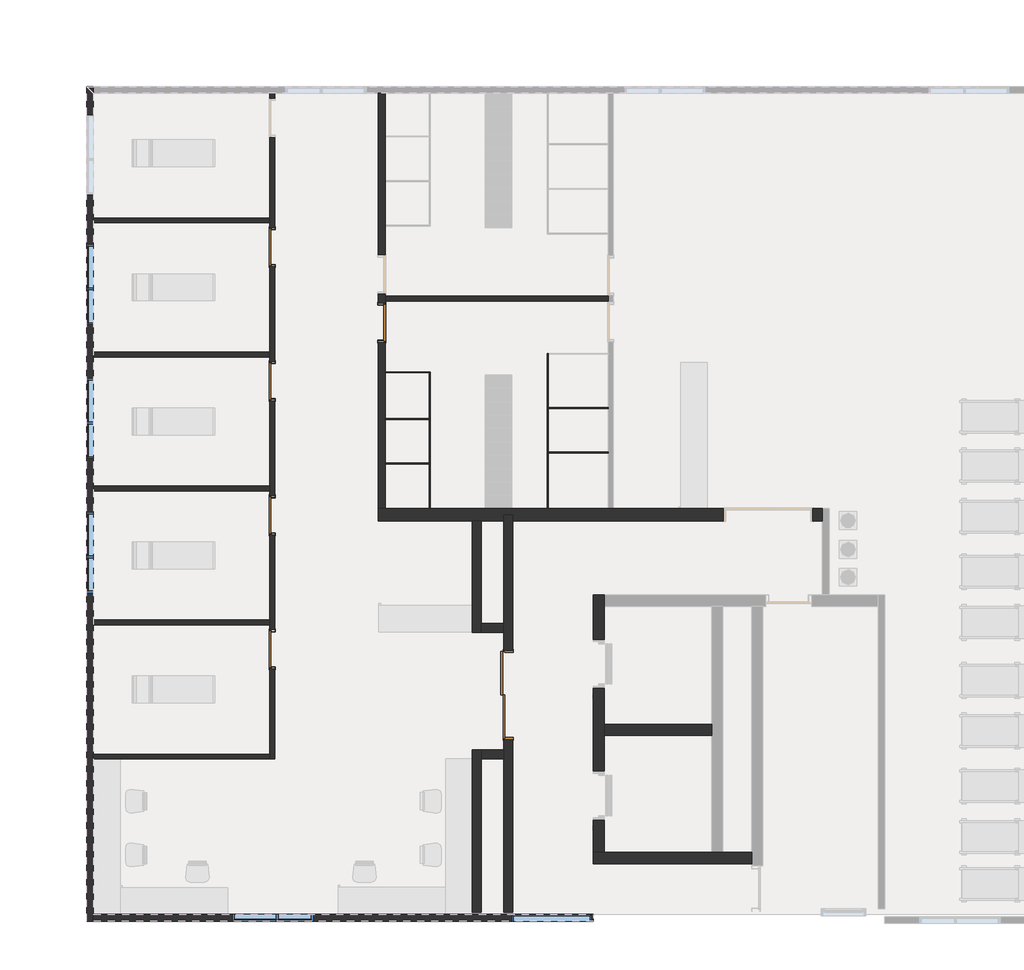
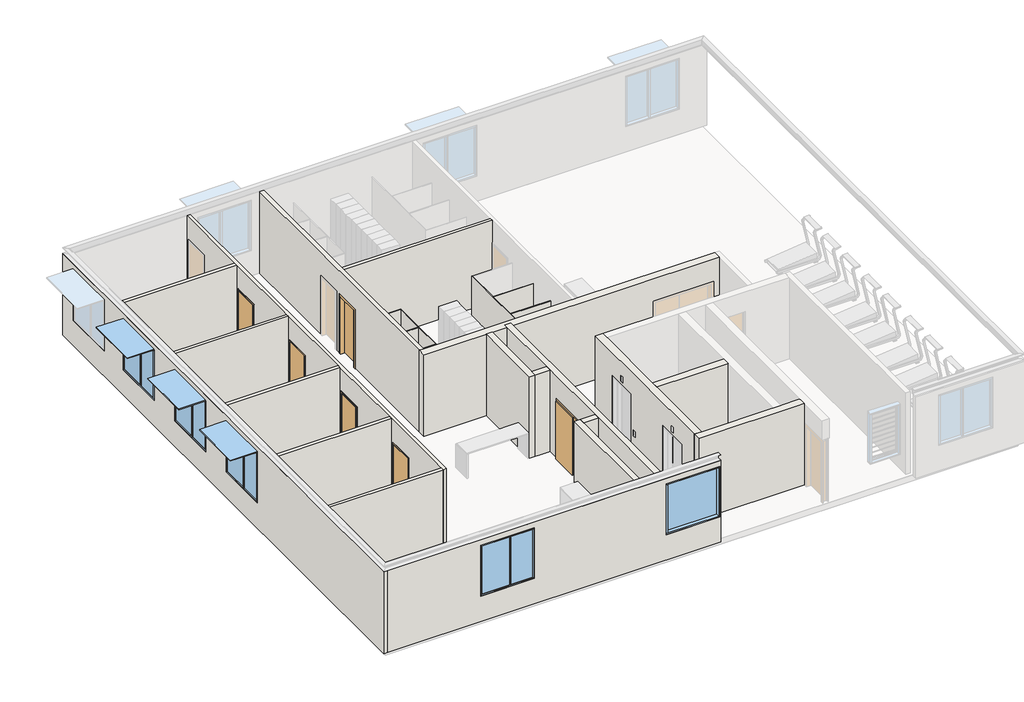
# One storey, part 1 of 3: 26 walls, 6 doors, 5 windows.
"""IFC4 building model written with IfcOpenShell, lengths in millimetres."""

import ifcopenshell
import ifcopenshell.guid

model = None  # the IFC model being written
_history = None  # IfcOwnerHistory: only IFC2X3 demands one
_inside = {}  # id of a spatial element -> (the spatial element, [elements in it])
_under = {}  # id of a project, library or spatial element -> (it, [spatial elements below it])
_declared = {}  # id of a project -> (the project, [libraries it declares])
_typed = {}  # id of a type object -> (the type object, [elements of that type])
_made_of = {}  # id of a material, layer set ... -> (it, [elements and type objects made of it])


def new_model(schema):
    """Start an empty IFC model of exactly this schema.

    Asked for "IFC4X3", IfcOpenShell would pick the latest addendum, in which some entities
    have other attributes; the version numbers below select the first issue.
    IFC2X3 requires an IfcOwnerHistory on every rooted entity: one is made here for all.
    """
    global model, _history
    if schema == "IFC4X3":
        model = ifcopenshell.file(schema_version=(4, 3, 0, 0))
    else:
        model = ifcopenshell.file(schema=schema)
    _inside.clear()
    _under.clear()
    _declared.clear()
    _typed.clear()
    _made_of.clear()
    _history = None
    if model.schema == "IFC2X3":
        org = make("IfcOrganization", Name="unknown")
        user = make(
            "IfcPersonAndOrganization",
            ThePerson=make("IfcPerson", FamilyName="unknown"),
            TheOrganization=org,
        )
        app = make(
            "IfcApplication",
            ApplicationDeveloper=org,
            Version="unknown",
            ApplicationFullName="unknown",
            ApplicationIdentifier="unknown",
        )
        _history = make(
            "IfcOwnerHistory",
            OwningUser=user,
            OwningApplication=app,
            ChangeAction="ADDED",
            CreationDate=0,
        )
    return model


def make(cls, **values):
    """One entity of the class cls with the attributes given. An attribute that is None is left unset."""
    return model.create_entity(
        cls, **{name: value for name, value in values.items() if value is not None}
    )


def rooted(cls, **values):
    """An entity with a GlobalId (a new one), such as an element, a storey or a relation."""
    return make(cls, GlobalId=ifcopenshell.guid.new(), OwnerHistory=_history, **values)


def si_unit(unit_type, name, prefix=None):
    """IfcSIUnit, for example si_unit("LENGTHUNIT", "METRE", prefix="MILLI")."""
    return make("IfcSIUnit", UnitType=unit_type, Prefix=prefix, Name=name)


def assignment(units):
    """IfcUnitAssignment: the units of a project."""
    return None if units is None else make("IfcUnitAssignment", Units=units)


def point(xyz):
    """IfcCartesianPoint."""
    return None if xyz is None else make("IfcCartesianPoint", Coordinates=xyz)


def direction(xyz):
    """IfcDirection."""
    return None if xyz is None else make("IfcDirection", DirectionRatios=xyz)


def frame(location, z_axis=None, x_axis=None):
    """IfcAxis2Placement3D, a coordinate frame: its origin and axes. An axis left out is left unset."""
    return make(
        "IfcAxis2Placement3D",
        Location=point(location),
        Axis=direction(z_axis),
        RefDirection=direction(x_axis),
    )


def origin():
    """The frame at (0, 0, 0) with its axes left unset."""
    return frame((0.0, 0.0, 0.0))


def place(relative_to, where):
    """IfcLocalPlacement: puts the frame where relative to a parent placement (None: the world)."""
    return make(
        "IfcLocalPlacement", PlacementRelTo=relative_to, RelativePlacement=where
    )


def context(
    kind, dimensions, precision=None, world=None, true_north=None, identifier=None
):
    """IfcGeometricRepresentationContext, for example the 3D "Model" context."""
    return make(
        "IfcGeometricRepresentationContext",
        ContextIdentifier=identifier,
        ContextType=kind,
        CoordinateSpaceDimension=dimensions,
        Precision=precision,
        WorldCoordinateSystem=world,
        TrueNorth=true_north,
    )


def project(units=None, contexts=None):
    """IfcProject with its units and contexts."""
    return rooted(
        "IfcProject",
        Name="project",
        RepresentationContexts=contexts,
        UnitsInContext=assignment(units),
    )


def spatial(cls, under=None, at=None, **own):
    """A site, building, storey or space (cls), placed at a placement, below another one or the project."""
    s = rooted(cls, ObjectPlacement=at, **own)
    if under is not None:
        _under.setdefault(under.id(), (under, []))[1].append(s)
    return s


def polyline(points):
    """IfcPolyline through the points."""
    return make("IfcPolyline", Points=[point(p) for p in points])


def outline(outer, holes=None, kind="AREA"):
    """IfcArbitraryClosedProfileDef: a profile drawn as a closed curve; with holes, ...WithVoids."""
    if holes is None:
        return make("IfcArbitraryClosedProfileDef", ProfileType=kind, OuterCurve=outer)
    return make(
        "IfcArbitraryProfileDefWithVoids",
        ProfileType=kind,
        OuterCurve=outer,
        InnerCurves=holes,
    )


def extrude(swept, where, along, depth):
    """IfcExtrudedAreaSolid: the profile swept, set in the frame where, extruded along a direction by depth."""
    return make(
        "IfcExtrudedAreaSolid",
        SweptArea=swept,
        Position=where,
        ExtrudedDirection=direction(along),
        Depth=depth,
    )


def faces_of(points, faces, orient=None, outer=None):
    """IfcFace entities. A face is a list of loops; a loop is a list of indices into points, from 0.

    orient and outer hold one flag for each loop. By default every Orientation is true, the
    first loop of a face is its IfcFaceOuterBound and the others are IfcFaceBound.
    """
    made = []
    for i, loops in enumerate(faces):
        bounds = []
        for j, loop in enumerate(loops):
            is_outer = j == 0 if outer is None else outer[i][j]
            bounds.append(
                make(
                    "IfcFaceOuterBound" if is_outer else "IfcFaceBound",
                    Bound=make("IfcPolyLoop", Polygon=[points[k] for k in loop]),
                    Orientation=True if orient is None else orient[i][j],
                )
            )
        made.append(make("IfcFace", Bounds=bounds))
    return made


def faceted_brep(points, faces, orient=None, outer=None, voids=None):
    """IfcFacetedBrep: a solid bounded by flat faces; with voids (closed shells), ...WithVoids."""
    shared = [point(p) for p in points]
    hull = make("IfcClosedShell", CfsFaces=faces_of(shared, faces, orient, outer))
    if voids is None:
        return make("IfcFacetedBrep", Outer=hull)
    return make(
        "IfcFacetedBrepWithVoids",
        Outer=hull,
        Voids=[
            make(cls, CfsFaces=faces_of(shared, fs, o, b)) for cls, fs, o, b in voids
        ],
    )


def shape(context_of_items, identifier, shape_type, items):
    """IfcShapeRepresentation: the items that make up one representation, for example the "Body"."""
    return make(
        "IfcShapeRepresentation",
        ContextOfItems=context_of_items,
        RepresentationIdentifier=identifier,
        RepresentationType=shape_type,
        Items=items,
    )


def source(mapping_origin, context_of_items, identifier, shape_type, items):
    """IfcRepresentationMap: a shape defined once, which mapped items show again and again."""
    return make(
        "IfcRepresentationMap",
        MappingOrigin=mapping_origin,
        MappedRepresentation=shape(context_of_items, identifier, shape_type, items),
    )


def transform(
    local_origin,
    x_axis=None,
    y_axis=None,
    z_axis=None,
    scale=None,
    scale2=None,
    scale3=None,
    uniform=True,
):
    """IfcCartesianTransformationOperator3D, or its non-uniform kind. x_axis, y_axis, z_axis: its Axis1, 2, 3."""
    if uniform:
        return make(
            "IfcCartesianTransformationOperator3D",
            Axis1=direction(x_axis),
            Axis2=direction(y_axis),
            LocalOrigin=point(local_origin),
            Scale=scale,
            Axis3=direction(z_axis),
        )
    return make(
        "IfcCartesianTransformationOperator3DnonUniform",
        Axis1=direction(x_axis),
        Axis2=direction(y_axis),
        LocalOrigin=point(local_origin),
        Scale=scale,
        Axis3=direction(z_axis),
        Scale2=scale2,
        Scale3=scale3,
    )


def mapped(mapping_source, mapping_target):
    """IfcMappedItem: shows the shape of a source again, moved by a transform."""
    return make(
        "IfcMappedItem", MappingSource=mapping_source, MappingTarget=mapping_target
    )


def made_of(thing, what):
    """Note that an element or type object is made of a material, layer set ...; save() writes the relation."""
    if what is not None:
        _made_of.setdefault(what.id(), (what, []))[1].append(thing)
    return thing


def element(
    cls,
    number,
    at=None,
    inside=None,
    cuts=None,
    type_object=None,
    material=None,
    context=None,
    identifier="Body",
    shape_type=None,
    held_by="IfcProductDefinitionShape",
    body=None,
    shapes=None,
    **own,
):
    """One element of the class cls, such as IfcWall. Its Tag is "e" and its number.

    at: its placement. inside: the storey or other place that contains it. cuts: it is an
    opening in that element (IfcRelVoidsElement). A single representation is given by context,
    identifier, shape_type and body (its items); several are given by shapes. held_by: the class
    of the entity that holds the representations. save() writes the other relations.
    """
    e = rooted(cls, Tag="e%d" % number, ObjectPlacement=at, **own)
    if body is not None:
        shapes = [shape(context, identifier, shape_type, body)]
    if shapes is not None:
        e.Representation = make(held_by, Representations=shapes)
    if inside is not None:
        _inside.setdefault(inside.id(), (inside, []))[1].append(e)
    if cuts is not None:
        rooted(
            "IfcRelVoidsElement", RelatingBuildingElement=cuts, RelatedOpeningElement=e
        )
    if type_object is not None:
        _typed.setdefault(type_object.id(), (type_object, []))[1].append(e)
    return made_of(e, material)


def aggregate(whole, parts):
    """IfcRelAggregates: a whole, such as a stair, and the parts it consists of."""
    return rooted("IfcRelAggregates", RelatingObject=whole, RelatedObjects=parts)


def save(model, path):
    """Write the relations noted so far, then the file.

    IfcRelAggregates (storeys below a building ...), IfcRelContainedInSpatialStructure (elements
    in a storey), IfcRelDefinesByType, IfcRelAssociatesMaterial and IfcRelDeclares: one each for
    every whole, place, type object, material and project.
    """
    for whole, parts in _under.values():
        aggregate(whole, parts)
    for where, things in _inside.values():
        rooted(
            "IfcRelContainedInSpatialStructure",
            RelatedElements=things,
            RelatingStructure=where,
        )
    for kind, things in _typed.values():
        rooted("IfcRelDefinesByType", RelatedObjects=things, RelatingType=kind)
    for what, things in _made_of.values():
        rooted("IfcRelAssociatesMaterial", RelatedObjects=things, RelatingMaterial=what)
    for by, libraries in _declared.values():
        rooted("IfcRelDeclares", RelatingContext=by, RelatedDefinitions=libraries)
    model.write(path)


def swing_double_metal_frame_double_2040_x_970x2_da7648d6(model_context):
    return source(origin(), model_context, "Body", "SolidModel", [
        extrude(outline(polyline([(-211.5, -115.0), (-211.5, -75.0), (758.5, -75.0), (758.5, -115.0), (-211.5, -115.0)])), frame((0.0, 0.0, 20.0), z_axis=(0.0, 0.0, 1.0), x_axis=(1.0, 0.0, 0.0)), (0.0, 0.0, 1.0), 2040.0),
        extrude(outline(polyline([(-211.5, -165.0), (-1181.5, -165.0), (-1181.5, -125.0), (-211.5, -125.0), (-211.5, -165.0)])), frame((0.0, 0.0, 20.0), z_axis=(0.0, 0.0, 1.0), x_axis=(1.0, 0.0, 0.0)), (0.0, 0.0, 1.0), 2040.0),
        faceted_brep([(808.5, 115.0, 0.0), (808.5, -115.0, 0.0), (760.5, -115.0, 0.0), (760.5, -73.0, 0.0), (740.5, -73.0, 0.0), (740.5, 115.0, 0.0), (740.5, 115.0, 2042.0), (-1163.5, 115.0, 2042.0), (-1163.5, 115.0, 0.0), (-1231.5, 115.0, 0.0), (-1231.5, 115.0, 2110.0), (808.5, 115.0, 2110.0), (740.5, -73.0, 2042.0), (760.5, -73.0, 2062.0), (-1183.5, -73.0, 2062.0), (-1183.5, -73.0, 0.0), (-1163.5, -73.0, 0.0), (-1163.5, -73.0, 2042.0), (760.5, -115.0, 2062.0), (808.5, -115.0, 2110.0), (-1231.5, -115.0, 2110.0), (-1231.5, -115.0, 0.0), (-1183.5, -115.0, 0.0), (-1183.5, -115.0, 2062.0)], [[[0, 1, 2, 3, 4, 5]], [[5, 6, 7, 8, 9, 10, 11, 0]], [[4, 12, 6, 5]], [[3, 13, 14, 15, 16, 17, 12, 4]], [[2, 18, 13, 3]], [[1, 19, 20, 21, 22, 23, 18, 2]], [[0, 11, 19, 1]], [[23, 22, 15, 14]], [[9, 8, 16, 15, 22, 21]], [[10, 9, 21, 20]], [[17, 16, 8, 7]], [[11, 10, 20, 19]], [[18, 23, 14, 13]], [[12, 17, 7, 6]]]),
    ])


def swing_metal_frame_single_dor_a031a637(model_context):
    return source(origin(), model_context, "Body", "SolidModel", [
        extrude(outline(polyline([(410.0, -70.0), (-410.0, -70.0), (-410.0, -30.0), (410.0, -30.0), (410.0, -70.0)])), frame((0.0, 0.0, 20.0), z_axis=(0.0, 0.0, 1.0), x_axis=(1.0, 0.0, 0.0)), (0.0, 0.0, 1.0), 2040.0),
        faceted_brep([(-460.0, 70.0, 0.0), (-392.0, 70.0, 0.0), (-392.0, -28.0, 0.0), (-412.0, -28.0, 0.0), (-412.0, -70.0, 0.0), (-460.0, -70.0, 0.0), (-460.0, -55.0, 0.0), (-458.0, -55.0, 0.0), (-458.0, -68.0, 0.0), (-414.0, -68.0, 0.0), (-414.0, -26.0, 0.0), (-394.0, -26.0, 0.0), (-394.0, 68.0, 0.0), (-458.0, 68.0, 0.0), (-458.0, 55.0, 0.0), (-460.0, 55.0, 0.0), (-460.0, 55.0, 2110.0), (-460.0, 70.0, 2110.0), (-458.0, 55.0, 2108.0), (458.0, 55.0, 2108.0), (458.0, 55.0, 0.0), (460.0, 55.0, 0.0), (460.0, 55.0, 2110.0), (-458.0, 68.0, 2108.0), (-394.0, 68.0, 2044.0), (394.0, 68.0, 2044.0), (394.0, 68.0, 0.0), (458.0, 68.0, 0.0), (458.0, 68.0, 2108.0), (-394.0, -26.0, 2044.0), (-414.0, -26.0, 2064.0), (414.0, -26.0, 2064.0), (414.0, -26.0, 0.0), (394.0, -26.0, 0.0), (394.0, -26.0, 2044.0), (-414.0, -68.0, 2064.0), (-458.0, -68.0, 2108.0), (458.0, -68.0, 2108.0), (458.0, -68.0, 0.0), (414.0, -68.0, 0.0), (414.0, -68.0, 2064.0), (-458.0, -55.0, 2108.0), (-460.0, -55.0, 2110.0), (460.0, -55.0, 2110.0), (460.0, -55.0, 0.0), (458.0, -55.0, 0.0), (458.0, -55.0, 2108.0), (-460.0, -70.0, 2110.0), (-412.0, -70.0, 2062.0), (412.0, -70.0, 2062.0), (412.0, -70.0, 0.0), (460.0, -70.0, 0.0), (460.0, -70.0, 2110.0), (-412.0, -28.0, 2062.0), (-392.0, -28.0, 2042.0), (392.0, -28.0, 2042.0), (392.0, -28.0, 0.0), (412.0, -28.0, 0.0), (412.0, -28.0, 2062.0), (-392.0, 70.0, 2042.0), (460.0, 70.0, 2110.0), (460.0, 70.0, 0.0), (392.0, 70.0, 0.0), (392.0, 70.0, 2042.0)], [[[0, 1, 2, 3, 4, 5, 6, 7, 8, 9, 10, 11, 12, 13, 14, 15]], [[15, 16, 17, 0]], [[14, 18, 19, 20, 21, 22, 16, 15]], [[13, 23, 18, 14]], [[12, 24, 25, 26, 27, 28, 23, 13]], [[11, 29, 24, 12]], [[10, 30, 31, 32, 33, 34, 29, 11]], [[9, 35, 30, 10]], [[8, 36, 37, 38, 39, 40, 35, 9]], [[7, 41, 36, 8]], [[6, 42, 43, 44, 45, 46, 41, 7]], [[5, 47, 42, 6]], [[4, 48, 49, 50, 51, 52, 47, 5]], [[3, 53, 48, 4]], [[2, 54, 55, 56, 57, 58, 53, 3]], [[1, 59, 54, 2]], [[0, 17, 60, 61, 62, 63, 59, 1]], [[22, 21, 61, 60]], [[61, 21, 20, 27, 26, 33, 32, 39, 38, 45, 44, 51, 50, 57, 56, 62]], [[28, 27, 20, 19]], [[34, 33, 26, 25]], [[40, 39, 32, 31]], [[46, 45, 38, 37]], [[52, 51, 44, 43]], [[58, 57, 50, 49]], [[63, 62, 56, 55]], [[16, 22, 60, 17]], [[23, 28, 19, 18]], [[29, 34, 25, 24]], [[35, 40, 31, 30]], [[41, 46, 37, 36]], [[47, 52, 43, 42]], [[53, 58, 49, 48]], [[59, 63, 55, 54]]]),
    ])


def swing_metal_frame_single_dor_504ee371(model_context):
    return source(origin(), model_context, "Body", "SolidModel", [
        extrude(outline(polyline([(410.0, 90.0), (410.0, 50.0), (-410.0, 50.0), (-410.0, 90.0), (410.0, 90.0)])), frame((0.0, 0.0, 20.0), z_axis=(0.0, 0.0, 1.0), x_axis=(1.0, 0.0, 0.0)), (0.0, 0.0, 1.0), 2040.0),
        faceted_brep([(-460.0, -90.0, 0.0), (-460.0, -75.0, 0.0), (-458.0, -75.0, 0.0), (-458.0, -88.0, 0.0), (-394.0, -88.0, 0.0), (-394.0, 46.0, 0.0), (-414.0, 46.0, 0.0), (-414.0, 88.0, 0.0), (-458.0, 88.0, 0.0), (-458.0, 75.0, 0.0), (-460.0, 75.0, 0.0), (-460.0, 90.0, 0.0), (-412.0, 90.0, 0.0), (-412.0, 48.0, 0.0), (-392.0, 48.0, 0.0), (-392.0, -90.0, 0.0), (-460.0, -90.0, 2110.0), (-460.0, -75.0, 2110.0), (460.0, -75.0, 2110.0), (460.0, -75.0, 0.0), (458.0, -75.0, 0.0), (458.0, -75.0, 2108.0), (-458.0, -75.0, 2108.0), (-458.0, -88.0, 2108.0), (458.0, -88.0, 2108.0), (458.0, -88.0, 0.0), (394.0, -88.0, 0.0), (394.0, -88.0, 2044.0), (-394.0, -88.0, 2044.0), (-394.0, 46.0, 2044.0), (394.0, 46.0, 2044.0), (394.0, 46.0, 0.0), (414.0, 46.0, 0.0), (414.0, 46.0, 2064.0), (-414.0, 46.0, 2064.0), (-414.0, 88.0, 2064.0), (414.0, 88.0, 2064.0), (414.0, 88.0, 0.0), (458.0, 88.0, 0.0), (458.0, 88.0, 2108.0), (-458.0, 88.0, 2108.0), (-458.0, 75.0, 2108.0), (458.0, 75.0, 2108.0), (458.0, 75.0, 0.0), (460.0, 75.0, 0.0), (460.0, 75.0, 2110.0), (-460.0, 75.0, 2110.0), (-460.0, 90.0, 2110.0), (460.0, 90.0, 2110.0), (460.0, 90.0, 0.0), (412.0, 90.0, 0.0), (412.0, 90.0, 2062.0), (-412.0, 90.0, 2062.0), (-412.0, 48.0, 2062.0), (412.0, 48.0, 2062.0), (412.0, 48.0, 0.0), (392.0, 48.0, 0.0), (392.0, 48.0, 2042.0), (-392.0, 48.0, 2042.0), (-392.0, -90.0, 2042.0), (392.0, -90.0, 2042.0), (392.0, -90.0, 0.0), (460.0, -90.0, 0.0), (460.0, -90.0, 2110.0)], [[[0, 1, 2, 3, 4, 5, 6, 7, 8, 9, 10, 11, 12, 13, 14, 15]], [[1, 0, 16, 17]], [[2, 1, 17, 18, 19, 20, 21, 22]], [[3, 2, 22, 23]], [[4, 3, 23, 24, 25, 26, 27, 28]], [[5, 4, 28, 29]], [[6, 5, 29, 30, 31, 32, 33, 34]], [[7, 6, 34, 35]], [[8, 7, 35, 36, 37, 38, 39, 40]], [[9, 8, 40, 41]], [[10, 9, 41, 42, 43, 44, 45, 46]], [[11, 10, 46, 47]], [[12, 11, 47, 48, 49, 50, 51, 52]], [[13, 12, 52, 53]], [[14, 13, 53, 54, 55, 56, 57, 58]], [[15, 14, 58, 59]], [[0, 15, 59, 60, 61, 62, 63, 16]], [[18, 63, 62, 19]], [[62, 61, 56, 55, 50, 49, 44, 43, 38, 37, 32, 31, 26, 25, 20, 19]], [[24, 21, 20, 25]], [[30, 27, 26, 31]], [[36, 33, 32, 37]], [[42, 39, 38, 43]], [[48, 45, 44, 49]], [[54, 51, 50, 55]], [[60, 57, 56, 61]], [[17, 16, 63, 18]], [[23, 22, 21, 24]], [[29, 28, 27, 30]], [[35, 34, 33, 36]], [[41, 40, 39, 42]], [[47, 46, 45, 48]], [[53, 52, 51, 54]], [[59, 58, 57, 60]]]),
    ])


def window_bottom_hung_window_bottom_hung_09912109(model_context):
    return source(origin(), model_context, "Body", "SweptSolid", [
        extrude(outline(polyline([(860.0, 38.0), (-80.0, 38.0), (-80.0, 50.0), (860.0, 50.0), (860.0, 38.0)])), frame((0.0, 0.0, 1040.0), z_axis=(0.0, 0.0, 1.0), x_axis=(1.0, 0.0, 0.0)), (0.0, 0.0, 1.0), 1720.0),
        extrude(outline(polyline([(-120.0, 38.0), (-860.0, 38.0), (-860.0, 50.0), (-120.0, 50.0), (-120.0, 38.0)])), frame((0.0, 0.0, 1040.0), z_axis=(0.0, 0.0, 1.0), x_axis=(1.0, 0.0, 0.0)), (0.0, 0.0, 1.0), 1720.0),
        extrude(outline(polyline([(900.0, 75.0), (900.0, -75.0), (-900.0, -75.0), (-900.0, 75.0), (900.0, 75.0)])), frame((0.0, 0.0, 2760.0), z_axis=(0.0, 0.0, 1.0), x_axis=(1.0, 0.0, 0.0)), (0.0, 0.0, 1.0), 40.0),
        extrude(outline(polyline([(900.0, 75.0), (900.0, -75.0), (-900.0, -75.0), (-900.0, 75.0), (900.0, 75.0)])), frame((0.0, 0.0, 1000.0), z_axis=(0.0, 0.0, 1.0), x_axis=(1.0, 0.0, 0.0)), (0.0, 0.0, 1.0), 40.0),
        extrude(outline(polyline([(-120.0, -75.0), (-120.0, 75.0), (-80.0, 75.0), (-80.0, -75.0), (-120.0, -75.0)])), frame((0.0, 0.0, 1040.0), z_axis=(0.0, 0.0, 1.0), x_axis=(1.0, 0.0, 0.0)), (0.0, 0.0, 1.0), 1720.0),
        extrude(outline(polyline([(-860.0, -75.0), (-900.0, -75.0), (-900.0, 75.0), (-860.0, 75.0), (-860.0, -75.0)])), frame((0.0, 0.0, 1040.0), z_axis=(0.0, 0.0, 1.0), x_axis=(1.0, 0.0, 0.0)), (0.0, 0.0, 1.0), 1720.0),
        extrude(outline(polyline([(860.0, -75.0), (860.0, 75.0), (900.0, 75.0), (900.0, -75.0), (860.0, -75.0)])), frame((0.0, 0.0, 1040.0), z_axis=(0.0, 0.0, 1.0), x_axis=(1.0, 0.0, 0.0)), (0.0, 0.0, 1.0), 1720.0),
        extrude(outline(polyline([(900.0, 75.0), (-900.0, 75.0), (-900.0, 975.0), (900.0, 975.0), (900.0, 75.0)])), frame((0.0, 0.0, 2800.0), z_axis=(0.0, 0.0, 1.0), x_axis=(1.0, 0.0, 0.0)), (0.0, 0.0, 1.0), 30.0),
    ])


def window_bottom_hung_window_bottom_hung_26d81d5b(model_context):
    return source(origin(), model_context, "Body", "SweptSolid", [
        extrude(outline(polyline([(860.0, 38.0), (-80.0, 38.0), (-80.0, 50.0), (860.0, 50.0), (860.0, 38.0)])), frame((0.0, 0.0, 1040.0), z_axis=(0.0, 0.0, 1.0), x_axis=(1.0, 0.0, 0.0)), (0.0, 0.0, 1.0), 1720.0),
        extrude(outline(polyline([(-120.0, 38.0), (-860.0, 38.0), (-860.0, 50.0), (-120.0, 50.0), (-120.0, 38.0)])), frame((0.0, 0.0, 1040.0), z_axis=(0.0, 0.0, 1.0), x_axis=(1.0, 0.0, 0.0)), (0.0, 0.0, 1.0), 1720.0),
        extrude(outline(polyline([(900.0, 75.0), (900.0, -75.0), (-900.0, -75.0), (-900.0, 75.0), (900.0, 75.0)])), frame((0.0, 0.0, 2760.0), z_axis=(0.0, 0.0, 1.0), x_axis=(1.0, 0.0, 0.0)), (0.0, 0.0, 1.0), 40.0),
        extrude(outline(polyline([(900.0, 75.0), (900.0, -75.0), (-900.0, -75.0), (-900.0, 75.0), (900.0, 75.0)])), frame((0.0, 0.0, 1000.0), z_axis=(0.0, 0.0, 1.0), x_axis=(1.0, 0.0, 0.0)), (0.0, 0.0, 1.0), 40.0),
        extrude(outline(polyline([(-120.0, -75.0), (-120.0, 75.0), (-80.0, 75.0), (-80.0, -75.0), (-120.0, -75.0)])), frame((0.0, 0.0, 1040.0), z_axis=(0.0, 0.0, 1.0), x_axis=(1.0, 0.0, 0.0)), (0.0, 0.0, 1.0), 1720.0),
        extrude(outline(polyline([(-860.0, -75.0), (-900.0, -75.0), (-900.0, 75.0), (-860.0, 75.0), (-860.0, -75.0)])), frame((0.0, 0.0, 1040.0), z_axis=(0.0, 0.0, 1.0), x_axis=(1.0, 0.0, 0.0)), (0.0, 0.0, 1.0), 1720.0),
        extrude(outline(polyline([(860.0, -75.0), (860.0, 75.0), (900.0, 75.0), (900.0, -75.0), (860.0, -75.0)])), frame((0.0, 0.0, 1040.0), z_axis=(0.0, 0.0, 1.0), x_axis=(1.0, 0.0, 0.0)), (0.0, 0.0, 1.0), 1720.0),
    ])


def window_fixed_1800mm_wide_217cd763(model_context):
    return source(origin(), model_context, "Body", "SweptSolid", [
        extrude(outline(polyline([(860.0, 60.0), (860.0, 48.0), (-860.0, 48.0), (-860.0, 60.0), (860.0, 60.0)])), frame((0.0, 0.0, 290.0), z_axis=(0.0, 0.0, 1.0), x_axis=(1.0, 0.0, 0.0)), (0.0, 0.0, 1.0), 1720.0),
        extrude(outline(polyline([(900.0, 75.0), (900.0, -75.0), (-900.0, -75.0), (-900.0, 75.0), (900.0, 75.0)])), frame((0.0, 0.0, 2010.0), z_axis=(0.0, 0.0, 1.0), x_axis=(1.0, 0.0, 0.0)), (0.0, 0.0, 1.0), 40.0),
        extrude(outline(polyline([(900.0, 75.0), (900.0, -75.0), (-900.0, -75.0), (-900.0, 75.0), (900.0, 75.0)])), frame((0.0, 0.0, 250.0), z_axis=(0.0, 0.0, 1.0), x_axis=(1.0, 0.0, 0.0)), (0.0, 0.0, 1.0), 40.0),
        extrude(outline(polyline([(-860.0, -75.0), (-900.0, -75.0), (-900.0, 75.0), (-860.0, 75.0), (-860.0, -75.0)])), frame((0.0, 0.0, 290.0), z_axis=(0.0, 0.0, 1.0), x_axis=(1.0, 0.0, 0.0)), (0.0, 0.0, 1.0), 1720.0),
        extrude(outline(polyline([(860.0, -75.0), (860.0, 75.0), (900.0, 75.0), (900.0, -75.0), (860.0, -75.0)])), frame((0.0, 0.0, 290.0), z_axis=(0.0, 0.0, 1.0), x_axis=(1.0, 0.0, 0.0)), (0.0, 0.0, 1.0), 1720.0),
    ])


model = new_model("IFC4")

# Units and contexts
model_context = context("Model", 3, world=origin())
ifc_project = project(units=[si_unit("LENGTHUNIT", "METRE", prefix="MILLI")], contexts=[model_context])

# Site, building, storey
site = spatial("IfcSite", under=ifc_project)
building = spatial("IfcBuilding", under=site)
storey = spatial("IfcBuildingStorey", under=building, Name="6階", Elevation=45400.0)

# Doors
placement = place(None, origin())
swing_double_metal_frame_double_2040_x_970x2_shape = swing_double_metal_frame_double_2040_x_970x2_da7648d6(model_context)
element("IfcDoor", 1, ObjectType="Swing_Double : Metal Frame Double - 2040 x 970x2", at=placement, inside=storey, context=model_context, shape_type="MappedRepresentation", body=[
    mapped(swing_double_metal_frame_double_2040_x_970x2_shape, transform((11794.6062665, 4887.7678956, 45400.0), x_axis=(0.0, -1.0, 0.0), y_axis=(1.0, 0.0, 0.0), z_axis=(0.0, 0.0, 1.0))),
])
swing_metal_frame_single_dor_shape = swing_metal_frame_single_dor_a031a637(model_context)
element("IfcDoor", 2, ObjectType="Swing_Metal Frame_Single_DOR : 2040h x 820 (2110x920 STUD)", at=placement, inside=storey, context=model_context, shape_type="MappedRepresentation", body=[
    mapped(swing_metal_frame_single_dor_shape, transform((6519.6057353, 6120.0, 45400.0), x_axis=(0.0, -1.0, 0.0), y_axis=(1.0, 0.0, 0.0), z_axis=(0.0, 0.0, 1.0))),
])
element("IfcDoor", 3, ObjectType="Swing_Metal Frame_Single_DOR : 2040h x 820 (2110x920 STUD)", at=placement, inside=storey, context=model_context, shape_type="MappedRepresentation", body=[
    mapped(swing_metal_frame_single_dor_shape, transform((6519.6057353, 9120.0, 45400.0), x_axis=(0.0, -1.0, 0.0), y_axis=(1.0, 0.0, 0.0), z_axis=(0.0, 0.0, 1.0))),
])
element("IfcDoor", 4, ObjectType="Swing_Metal Frame_Single_DOR : 2040h x 820 (2110x920 STUD)", at=placement, inside=storey, context=model_context, shape_type="MappedRepresentation", body=[
    mapped(swing_metal_frame_single_dor_shape, transform((6519.6057353, 12120.0, 45400.0), x_axis=(0.0, -1.0, 0.0), y_axis=(1.0, 0.0, 0.0), z_axis=(0.0, 0.0, 1.0))),
])
element("IfcDoor", 5, ObjectType="Swing_Metal Frame_Single_DOR : 2040h x 820 (2110x920 STUD)", at=placement, inside=storey, context=model_context, shape_type="MappedRepresentation", body=[
    mapped(swing_metal_frame_single_dor_shape, transform((6519.6057353, 15120.0, 45400.0), x_axis=(0.0, -1.0, 0.0), y_axis=(1.0, 0.0, 0.0), z_axis=(0.0, 0.0, 1.0))),
])
swing_metal_frame_single_dor_2_shape = swing_metal_frame_single_dor_504ee371(model_context)
element("IfcDoor", 6, ObjectType="Swing_Metal Frame_Single_DOR : 2040h x 820 (2110x920 STUD)", at=placement, inside=storey, context=model_context, shape_type="MappedRepresentation", body=[
    mapped(swing_metal_frame_single_dor_2_shape, transform((8967.3164613, 13428.1340387, 45400.0), x_axis=(0.0, -1.0, 0.0), y_axis=(1.0, 0.0, 0.0), z_axis=(0.0, 0.0, 1.0))),
])

# Walls
element("IfcWall", 7, ObjectType="Whte Paint Finish", at=placement, inside=storey, context=model_context, shape_type="Brep", body=[
    faceted_brep([(9042.3164613, 18560.0, 48300.0), (9042.3164613, 14023.1340387, 48300.0), (9042.3164613, 13913.1340387, 48300.0), (9042.3164613, 9266.2680774, 48300.0), (9042.3164613, 9266.2680774, 45400.0), (9042.3164613, 10266.2680774, 45400.0), (9042.3164613, 10284.2680774, 45400.0), (9042.3164613, 11266.2680774, 45400.0), (9042.3164613, 11284.2680774, 45400.0), (9042.3164613, 12310.2680774, 45400.0), (9042.3164613, 12328.2680774, 45400.0), (9042.3164613, 12988.1340387, 45400.0), (9042.3164613, 12988.1340387, 47490.0), (9042.3164613, 13868.1340387, 47490.0), (9042.3164613, 13868.1340387, 45400.0), (9042.3164613, 13913.1340387, 45400.0), (9042.3164613, 14023.1340387, 45400.0), (9042.3164613, 14068.1340387, 45400.0), (9042.3164613, 14068.1340387, 47490.0), (9042.3164613, 14948.1340387, 47490.0), (9042.3164613, 14948.1340387, 45400.0), (9042.3164613, 15591.0, 45400.0), (9042.3164613, 15609.0, 45400.0), (9042.3164613, 16591.0, 45400.0), (9042.3164613, 16609.0, 45400.0), (9042.3164613, 17591.0, 45400.0), (9042.3164613, 17609.0, 45400.0), (9042.3164613, 18560.0, 45400.0), (8892.3164613, 9266.2680774, 48300.0), (8892.3164613, 18560.0, 48300.0), (8892.3164613, 18560.0, 45400.0), (8892.3164613, 14948.1340387, 45400.0), (8892.3164613, 14948.1340387, 47490.0), (8892.3164613, 14068.1340387, 47490.0), (8892.3164613, 14068.1340387, 45400.0), (8892.3164613, 13868.1340387, 45400.0), (8892.3164613, 13868.1340387, 47490.0), (8892.3164613, 12988.1340387, 47490.0), (8892.3164613, 12988.1340387, 45400.0), (8892.3164613, 9266.2680774, 45400.0)], [[[0, 1, 2, 3, 4, 5, 6, 7, 8, 9, 10, 11, 12, 13, 14, 15, 16, 17, 18, 19, 20, 21, 22, 23, 24, 25, 26, 27]], [[28, 29, 30, 31, 32, 33, 34, 35, 36, 37, 38, 39]], [[30, 27, 26, 25, 24, 23, 22, 21, 20, 31]], [[4, 39, 38, 11, 10, 9, 8, 7, 6, 5]], [[34, 17, 16, 15, 14, 35]], [[3, 2, 1, 0, 29, 28]], [[0, 27, 30, 29]], [[4, 3, 28, 39]], [[19, 32, 31, 20]], [[32, 19, 18, 33]], [[33, 18, 17, 34]], [[37, 12, 11, 38]], [[12, 37, 36, 13]], [[13, 36, 35, 14]]]),
])
element("IfcWall", 8, ObjectType="Brickwork_Double_270mm", at=placement, inside=storey, context=model_context, shape_type="Brep", body=[
    faceted_brep([(8892.3164613, 8996.2680774, 45400.0), (16608.9954006, 8996.2680774, 45400.0), (16608.9954006, 8996.2680774, 47490.0), (18608.9954006, 8996.2680774, 47490.0), (18608.9954006, 8996.2680774, 45400.0), (18821.1062665, 8996.2680774, 45400.0), (18821.1062665, 8996.2680774, 48300.0), (8892.3164613, 8996.2680774, 48300.0), (16608.9954006, 9266.2680774, 47490.0), (16608.9954006, 9266.2680774, 45400.0), (14143.9954006, 9266.2680774, 45400.0), (14033.9954006, 9266.2680774, 45400.0), (12687.9954006, 9266.2680774, 45400.0), (12669.9954006, 9266.2680774, 45400.0), (10051.3164613, 9266.2680774, 45400.0), (10033.3164613, 9266.2680774, 45400.0), (9042.3164613, 9266.2680774, 45400.0), (8892.3164613, 9266.2680774, 45400.0), (8892.3164613, 9266.2680774, 48300.0), (9042.3164613, 9266.2680774, 48300.0), (14033.9954006, 9266.2680774, 48300.0), (14143.9954006, 9266.2680774, 48300.0), (18821.1062665, 9266.2680774, 48300.0), (18821.1062665, 9266.2680774, 45400.0), (18608.9954006, 9266.2680774, 45400.0), (18608.9954006, 9266.2680774, 47490.0)], [[[0, 1, 2, 3, 4, 5, 6, 7]], [[8, 9, 10, 11, 12, 13, 14, 15, 16, 17, 18, 19, 20, 21, 22, 23, 24, 25]], [[24, 23, 5, 4]], [[17, 16, 15, 14, 13, 12, 11, 10, 9, 1, 0]], [[7, 6, 22, 21, 20, 19, 18]], [[6, 5, 23, 22]], [[0, 7, 18, 17]], [[2, 1, 9, 8]], [[3, 2, 8, 25]], [[4, 3, 25, 24]]]),
])
element("IfcWall", 9, ObjectType="Whte Paint Finish", at=placement, inside=storey, context=model_context, shape_type="SweptSolid", body=[
    extrude(outline(polyline([(45400.0, 2519.6057353), (45400.0, 13694.6062665), (48300.0, 13694.6062665), (48300.0, 2519.6057353), (45400.0, 2519.6057353)]), holes=[polyline([(46300.0, 11869.6062665), (48100.0, 11869.6062665), (48100.0, 13669.6062665), (46300.0, 13669.6062665), (46300.0, 11869.6062665)]), polyline([(46300.0, 7429.6062665), (46300.0, 5629.6062665), (48100.0, 5629.6062665), (48100.0, 7429.6062665), (46300.0, 7429.6062665)])]), frame((0.0, 39.0898177, 0.0), z_axis=(0.0, 1.0, 0.0), x_axis=(0.0, 0.0, 1.0)), (0.0, 0.0, 1.0), 150.0),
])
element("IfcWall", 10, ObjectType="Whte Paint Finish", at=placement, inside=storey, context=model_context, shape_type="Brep", body=[
    faceted_brep([(2519.6057353, 39.0898177, 48300.0), (2519.6057353, 189.0898177, 48300.0), (2519.6057353, 3665.0, 48300.0), (2519.6057353, 3775.0, 48300.0), (2519.6057353, 6665.0, 48300.0), (2519.6057353, 6775.0, 48300.0), (2519.6057353, 9665.0, 48300.0), (2519.6057353, 9775.0, 48300.0), (2519.6057353, 12665.0, 48300.0), (2519.6057353, 12775.0, 48300.0), (2519.6057353, 15665.0, 48300.0), (2519.6057353, 15775.0, 48300.0), (2519.6057353, 18560.0, 48300.0), (2519.6057353, 18710.0, 48300.0), (2369.6057353, 18710.0, 48300.0), (2369.6057353, 39.0898177, 48300.0), (2519.6057353, 39.0898177, 45400.0), (2519.6057353, 189.0898177, 45400.0), (2519.6057353, 3665.0, 45400.0), (2519.6057353, 3775.0, 45400.0), (2519.6057353, 6665.0, 45400.0), (2519.6057353, 6775.0, 45400.0), (2519.6057353, 9665.0, 45400.0), (2519.6057353, 9775.0, 45400.0), (2519.6057353, 12665.0, 45400.0), (2519.6057353, 12775.0, 45400.0), (2519.6057353, 15665.0, 45400.0), (2519.6057353, 15775.0, 45400.0), (2519.6057353, 18560.0, 45400.0), (2519.6057353, 18710.0, 45400.0), (2519.6057353, 16285.3166994, 46300.0), (2519.6057353, 16285.3166994, 48100.0), (2519.6057353, 18085.3166994, 48100.0), (2519.6057353, 18085.3166994, 46300.0), (2519.6057353, 13385.3166994, 46300.0), (2519.6057353, 13385.3166994, 48100.0), (2519.6057353, 15185.3166994, 48100.0), (2519.6057353, 15185.3166994, 46300.0), (2519.6057353, 10385.3166994, 46300.0), (2519.6057353, 10385.3166994, 48100.0), (2519.6057353, 12185.3166994, 48100.0), (2519.6057353, 12185.3166994, 46300.0), (2519.6057353, 7385.3166994, 46300.0), (2519.6057353, 7385.3166994, 48100.0), (2519.6057353, 9185.3166994, 48100.0), (2519.6057353, 9185.3166994, 46300.0), (2369.6057353, 39.0898177, 45400.0), (2369.6057353, 18710.0, 45400.0), (2369.6057353, 16285.3166994, 46300.0), (2369.6057353, 18085.3166994, 46300.0), (2369.6057353, 18085.3166994, 48100.0), (2369.6057353, 16285.3166994, 48100.0), (2369.6057353, 13385.3166994, 46300.0), (2369.6057353, 15185.3166994, 46300.0), (2369.6057353, 15185.3166994, 48100.0), (2369.6057353, 13385.3166994, 48100.0), (2369.6057353, 10385.3166994, 46300.0), (2369.6057353, 12185.3166994, 46300.0), (2369.6057353, 12185.3166994, 48100.0), (2369.6057353, 10385.3166994, 48100.0), (2369.6057353, 7385.3166994, 46300.0), (2369.6057353, 9185.3166994, 46300.0), (2369.6057353, 9185.3166994, 48100.0), (2369.6057353, 7385.3166994, 48100.0)], [[[0, 1, 2, 3, 4, 5, 6, 7, 8, 9, 10, 11, 12, 13, 14, 15]], [[16, 17, 18, 19, 20, 21, 22, 23, 24, 25, 26, 27, 28, 29, 13, 12, 11, 10, 9, 8, 7, 6, 5, 4, 3, 2, 1, 0], [30, 31, 32, 33], [34, 35, 36, 37], [38, 39, 40, 41], [42, 43, 44, 45]], [[46, 15, 14, 47], [48, 49, 50, 51], [52, 53, 54, 55], [56, 57, 58, 59], [60, 61, 62, 63]], [[29, 28, 27, 26, 25, 24, 23, 22, 21, 20, 19, 18, 17, 16, 46, 47]], [[16, 0, 15, 46]], [[13, 29, 47, 14]], [[31, 30, 48, 51]], [[32, 31, 51, 50]], [[33, 32, 50, 49]], [[30, 33, 49, 48]], [[35, 34, 52, 55]], [[36, 35, 55, 54]], [[37, 36, 54, 53]], [[34, 37, 53, 52]], [[39, 38, 56, 59]], [[40, 39, 59, 58]], [[41, 40, 58, 57]], [[38, 41, 57, 56]], [[43, 42, 60, 63]], [[44, 43, 63, 62]], [[45, 44, 62, 61]], [[42, 45, 61, 60]]]),
])
element("IfcWall", 11, ObjectType="Brickwork_Single_110mm", at=placement, inside=storey, context=model_context, shape_type="SweptSolid", body=[
    extrude(outline(polyline([(14033.9954006, 13913.1340387), (9042.3164613, 13913.1340387), (9042.3164613, 14023.1340387), (14033.9954006, 14023.1340387), (14033.9954006, 13913.1340387)])), frame((0.0, 0.0, 45400.0), z_axis=(0.0, 0.0, 1.0), x_axis=(1.0, 0.0, 0.0)), (0.0, 0.0, 1.0), 2900.0),
])
element("IfcWall", 12, ObjectType="Brickwork_Single_110mm", at=placement, inside=storey, context=model_context, shape_type="Brep", body=[
    faceted_brep([(6464.6057353, 3665.0, 48300.0), (6464.6057353, 3775.0, 48300.0), (6464.6057353, 6665.0, 48300.0), (6464.6057353, 6775.0, 48300.0), (6464.6057353, 9665.0, 48300.0), (6464.6057353, 9775.0, 48300.0), (6464.6057353, 12665.0, 48300.0), (6464.6057353, 12775.0, 48300.0), (6464.6057353, 15665.0, 48300.0), (6464.6057353, 15775.0, 48300.0), (6464.6057353, 18560.0, 48300.0), (6464.6057353, 18560.0, 45400.0), (6464.6057353, 18455.0, 45400.0), (6464.6057353, 18455.0, 47490.0), (6464.6057353, 17575.0, 47490.0), (6464.6057353, 17575.0, 45400.0), (6464.6057353, 15775.0, 45400.0), (6464.6057353, 15665.0, 45400.0), (6464.6057353, 15560.0, 45400.0), (6464.6057353, 15560.0, 47490.0), (6464.6057353, 14680.0, 47490.0), (6464.6057353, 14680.0, 45400.0), (6464.6057353, 12775.0, 45400.0), (6464.6057353, 12665.0, 45400.0), (6464.6057353, 12560.0, 45400.0), (6464.6057353, 12560.0, 47490.0), (6464.6057353, 11680.0, 47490.0), (6464.6057353, 11680.0, 45400.0), (6464.6057353, 9775.0, 45400.0), (6464.6057353, 9665.0, 45400.0), (6464.6057353, 9560.0, 45400.0), (6464.6057353, 9560.0, 47490.0), (6464.6057353, 8680.0, 47490.0), (6464.6057353, 8680.0, 45400.0), (6464.6057353, 6775.0, 45400.0), (6464.6057353, 6665.0, 45400.0), (6464.6057353, 6560.0, 45400.0), (6464.6057353, 6560.0, 47490.0), (6464.6057353, 5680.0, 47490.0), (6464.6057353, 5680.0, 45400.0), (6464.6057353, 3775.0, 45400.0), (6464.6057353, 3665.0, 45400.0), (6574.6057353, 18560.0, 48300.0), (6574.6057353, 3665.0, 48300.0), (6574.6057353, 3665.0, 45400.0), (6574.6057353, 5680.0, 45400.0), (6574.6057353, 5680.0, 47490.0), (6574.6057353, 6560.0, 47490.0), (6574.6057353, 6560.0, 45400.0), (6574.6057353, 8680.0, 45400.0), (6574.6057353, 8680.0, 47490.0), (6574.6057353, 9560.0, 47490.0), (6574.6057353, 9560.0, 45400.0), (6574.6057353, 11680.0, 45400.0), (6574.6057353, 11680.0, 47490.0), (6574.6057353, 12560.0, 47490.0), (6574.6057353, 12560.0, 45400.0), (6574.6057353, 14680.0, 45400.0), (6574.6057353, 14680.0, 47490.0), (6574.6057353, 15560.0, 47490.0), (6574.6057353, 15560.0, 45400.0), (6574.6057353, 17575.0, 45400.0), (6574.6057353, 17575.0, 47490.0), (6574.6057353, 18455.0, 47490.0), (6574.6057353, 18455.0, 45400.0), (6574.6057353, 18560.0, 45400.0)], [[[0, 1, 2, 3, 4, 5, 6, 7, 8, 9, 10, 11, 12, 13, 14, 15, 16, 17, 18, 19, 20, 21, 22, 23, 24, 25, 26, 27, 28, 29, 30, 31, 32, 33, 34, 35, 36, 37, 38, 39, 40, 41]], [[42, 43, 44, 45, 46, 47, 48, 49, 50, 51, 52, 53, 54, 55, 56, 57, 58, 59, 60, 61, 62, 63, 64, 65]], [[11, 65, 64, 12]], [[44, 41, 40, 39, 45]], [[48, 36, 35, 34, 33, 49]], [[52, 30, 29, 28, 27, 53]], [[56, 24, 23, 22, 21, 57]], [[60, 18, 17, 16, 15, 61]], [[10, 9, 8, 7, 6, 5, 4, 3, 2, 1, 0, 43, 42]], [[11, 10, 42, 65]], [[0, 41, 44, 43]], [[38, 46, 45, 39]], [[46, 38, 37, 47]], [[47, 37, 36, 48]], [[32, 50, 49, 33]], [[50, 32, 31, 51]], [[51, 31, 30, 52]], [[26, 54, 53, 27]], [[54, 26, 25, 55]], [[55, 25, 24, 56]], [[20, 58, 57, 21]], [[58, 20, 19, 59]], [[59, 19, 18, 60]], [[14, 62, 61, 15]], [[62, 14, 13, 63]], [[63, 13, 12, 64]]]),
])
element("IfcWall", 13, ObjectType="Brickwork_Single_110mm", at=placement, inside=storey, context=model_context, shape_type="SweptSolid", body=[
    extrude(outline(polyline([(2519.6057353, 3775.0), (6464.6057353, 3775.0), (6464.6057353, 3665.0), (2519.6057353, 3665.0), (2519.6057353, 3775.0)])), frame((0.0, 0.0, 45400.0), z_axis=(0.0, 0.0, 1.0), x_axis=(1.0, 0.0, 0.0)), (0.0, 0.0, 1.0), 2900.0),
])
element("IfcWall", 14, ObjectType="Brickwork_Single_110mm", at=placement, inside=storey, context=model_context, shape_type="SweptSolid", body=[
    extrude(outline(polyline([(6464.6057353, 15665.0), (2519.6057353, 15665.0), (2519.6057353, 15775.0), (6464.6057353, 15775.0), (6464.6057353, 15665.0)])), frame((0.0, 0.0, 45400.0), z_axis=(0.0, 0.0, 1.0), x_axis=(1.0, 0.0, 0.0)), (0.0, 0.0, 1.0), 2900.0),
])
element("IfcWall", 15, ObjectType="Brickwork_Single_110mm", at=placement, inside=storey, context=model_context, shape_type="SweptSolid", body=[
    extrude(outline(polyline([(6464.6057353, 12665.0), (2519.6057353, 12665.0), (2519.6057353, 12775.0), (6464.6057353, 12775.0), (6464.6057353, 12665.0)])), frame((0.0, 0.0, 45400.0), z_axis=(0.0, 0.0, 1.0), x_axis=(1.0, 0.0, 0.0)), (0.0, 0.0, 1.0), 2900.0),
])
element("IfcWall", 16, ObjectType="Brickwork_Single_110mm", at=placement, inside=storey, context=model_context, shape_type="SweptSolid", body=[
    extrude(outline(polyline([(6464.6057353, 9665.0), (2519.6057353, 9665.0), (2519.6057353, 9775.0), (6464.6057353, 9775.0), (6464.6057353, 9665.0)])), frame((0.0, 0.0, 45400.0), z_axis=(0.0, 0.0, 1.0), x_axis=(1.0, 0.0, 0.0)), (0.0, 0.0, 1.0), 2900.0),
])
element("IfcWall", 17, ObjectType="Brickwork_Single_110mm", at=placement, inside=storey, context=model_context, shape_type="SweptSolid", body=[
    extrude(outline(polyline([(6464.6057353, 6665.0), (2519.6057353, 6665.0), (2519.6057353, 6775.0), (6464.6057353, 6775.0), (6464.6057353, 6665.0)])), frame((0.0, 0.0, 45400.0), z_axis=(0.0, 0.0, 1.0), x_axis=(1.0, 0.0, 0.0)), (0.0, 0.0, 1.0), 2900.0),
])
element("IfcWall", 18, ObjectType="C1 - Concrete Type 2", at=placement, inside=storey, context=model_context, shape_type="SweptSolid", body=[
    extrude(outline(polyline([(11694.6062665, 6497.0008144), (11194.6062665, 6497.0008144), (11194.6062665, 6697.0008144), (11694.6062665, 6697.0008144), (11694.6062665, 6497.0008144)])), frame((0.0, 0.0, 45400.0), z_axis=(0.0, 0.0, 1.0), x_axis=(1.0, 0.0, 0.0)), (0.0, 0.0, 1.0), 2900.0),
])
element("IfcWall", 19, ObjectType="C1 - Concrete Type 2", at=placement, inside=storey, context=model_context, shape_type="Brep", body=[
    faceted_brep([(11194.6062665, 6497.0008144, 45400.0), (11194.6062665, 6697.0008144, 45400.0), (11194.6062665, 8997.0008144, 45400.0), (11194.6062665, 8997.0008144, 48300.0), (11194.6062665, 6697.0008144, 48300.0), (11194.6062665, 6497.0008144, 48300.0), (10994.6062665, 6497.0008144, 45400.0), (10994.6062665, 6497.0008144, 48300.0), (10994.6062665, 8997.0008144, 48300.0), (10994.6062665, 8997.0008144, 45400.0)], [[[0, 1, 2, 3, 4, 5]], [[6, 7, 8, 9]], [[2, 1, 0, 6, 9]], [[3, 2, 9, 8]], [[5, 4, 3, 8, 7]], [[0, 5, 7, 6]]]),
])
element("IfcWall", 20, ObjectType="C1 - Concrete Type 2", at=placement, inside=storey, context=model_context, shape_type="SweptSolid", body=[
    extrude(outline(polyline([(11694.6062665, 3673.0), (11194.6062665, 3673.0), (11194.6062665, 3873.0), (11694.6062665, 3873.0), (11694.6062665, 3673.0)])), frame((0.0, 0.0, 45400.0), z_axis=(0.0, 0.0, 1.0), x_axis=(1.0, 0.0, 0.0)), (0.0, 0.0, 1.0), 2900.0),
])
element("IfcWall", 21, ObjectType="C1 - Concrete Type 2", at=placement, inside=storey, context=model_context, shape_type="Brep", body=[
    faceted_brep([(11194.6062665, 235.0, 45400.0), (11194.6062665, 3673.0, 45400.0), (11194.6062665, 3873.0, 45400.0), (11194.6062665, 3873.0, 48300.0), (11194.6062665, 3673.0, 48300.0), (11194.6062665, 235.0, 48300.0), (10994.6062665, 235.0, 45400.0), (10994.6062665, 235.0, 48300.0), (10994.6062665, 3873.0, 48300.0), (10994.6062665, 3873.0, 45400.0)], [[[0, 1, 2, 3, 4, 5]], [[6, 7, 8, 9]], [[2, 1, 0, 6, 9]], [[3, 2, 9, 8]], [[5, 4, 3, 8, 7]], [[0, 5, 7, 6]]]),
])
element("IfcWall", 22, ObjectType="C1 - Concrete Type 2", at=placement, inside=storey, context=model_context, shape_type="Brep", body=[
    faceted_brep([(11894.6062665, 9131.2680774, 45400.0), (11894.6062665, 9131.2680774, 48300.0), (11894.6062665, 235.0, 48300.0), (11894.6062665, 235.0, 45400.0), (11894.6062665, 4099.2678956, 45400.0), (11894.6062665, 4099.2678956, 47490.0), (11894.6062665, 6099.2678956, 47490.0), (11894.6062665, 6099.2678956, 45400.0), (11694.6062665, 9131.2680774, 48300.0), (11694.6062665, 9131.2680774, 45400.0), (11694.6062665, 6697.0008144, 45400.0), (11694.6062665, 6497.0008144, 45400.0), (11694.6062665, 6099.2678956, 45400.0), (11694.6062665, 6099.2678956, 47490.0), (11694.6062665, 4099.2678956, 47490.0), (11694.6062665, 4099.2678956, 45400.0), (11694.6062665, 3873.0, 45400.0), (11694.6062665, 3673.0, 45400.0), (11694.6062665, 235.0, 45400.0), (11694.6062665, 235.0, 48300.0), (11694.6062665, 3673.0, 48300.0), (11694.6062665, 3873.0, 48300.0), (11694.6062665, 6497.0008144, 48300.0), (11694.6062665, 6697.0008144, 48300.0)], [[[0, 1, 2, 3, 4, 5, 6, 7]], [[8, 9, 10, 11, 12, 13, 14, 15, 16, 17, 18, 19, 20, 21, 22, 23]], [[9, 0, 7, 12, 11, 10]], [[3, 18, 17, 16, 15, 4]], [[1, 0, 9, 8]], [[2, 1, 8, 23, 22, 21, 20, 19]], [[3, 2, 19, 18]], [[6, 13, 12, 7]], [[13, 6, 5, 14]], [[14, 5, 4, 15]]]),
])
element("IfcWall", 23, ObjectType="C1 - Concrete Type 3 - 250mm", at=placement, inside=storey, context=model_context, shape_type="Brep", body=[
    faceted_brep([(13694.6062665, 1325.0, 45400.0), (17244.6062665, 1325.0, 45400.0), (17244.6062665, 1325.0, 48300.0), (13694.6062665, 1325.0, 48300.0), (13694.6062665, 1575.0, 45400.0), (13694.6062665, 1575.0, 48300.0), (13944.6062665, 1575.0, 48300.0), (16344.6062665, 1575.0, 48300.0), (16594.6062665, 1575.0, 48300.0), (17244.6062665, 1575.0, 48300.0), (17244.6062665, 1575.0, 45400.0), (16594.6062665, 1575.0, 45400.0), (16344.6062665, 1575.0, 45400.0), (13944.6062665, 1575.0, 45400.0)], [[[0, 1, 2, 3]], [[4, 5, 6, 7, 8, 9, 10, 11, 12, 13]], [[1, 0, 4, 13, 12, 11, 10]], [[3, 2, 9, 8, 7, 6, 5]], [[0, 3, 5, 4]], [[2, 1, 10, 9]]]),
])
element("IfcWall", 24, ObjectType="C1 - Concrete Type 3 - 250mm", at=placement, inside=storey, context=model_context, shape_type="SweptSolid", body=[
    extrude(outline(polyline([(16344.6062665, 4195.0), (13944.6062665, 4195.0), (13944.6062665, 4445.0), (16344.6062665, 4445.0), (16344.6062665, 4195.0)])), frame((0.0, 0.0, 45400.0), z_axis=(0.0, 0.0, 1.0), x_axis=(1.0, 0.0, 0.0)), (0.0, 0.0, 1.0), 2900.0),
])
element("IfcWall", 25, ObjectType="C1 - Concrete Type 3 - 250mm", at=placement, inside=storey, context=model_context, shape_type="Brep", body=[
    faceted_brep([(13944.6062665, 7335.0, 48300.0), (13944.6062665, 7085.0, 48300.0), (13944.6062665, 4445.0, 48300.0), (13944.6062665, 4195.0, 48300.0), (13944.6062665, 1575.0, 48300.0), (13944.6062665, 1575.0, 45400.0), (13944.6062665, 2295.0, 45400.0), (13944.6062665, 2295.0, 47500.0), (13944.6062665, 3395.0, 47500.0), (13944.6062665, 3395.0, 45400.0), (13944.6062665, 4195.0, 45400.0), (13944.6062665, 4445.0, 45400.0), (13944.6062665, 5245.0, 45400.0), (13944.6062665, 5245.0, 47500.0), (13944.6062665, 6345.0, 47500.0), (13944.6062665, 6345.0, 45400.0), (13944.6062665, 7085.0, 45400.0), (13944.6062665, 7335.0, 45400.0), (13694.6062665, 1575.0, 48300.0), (13694.6062665, 7335.0, 48300.0), (13694.6062665, 7335.0, 45400.0), (13694.6062665, 6345.0, 45400.0), (13694.6062665, 6345.0, 47500.0), (13694.6062665, 5245.0, 47500.0), (13694.6062665, 5245.0, 45400.0), (13694.6062665, 3395.0, 45400.0), (13694.6062665, 3395.0, 47500.0), (13694.6062665, 2295.0, 47500.0), (13694.6062665, 2295.0, 45400.0), (13694.6062665, 1575.0, 45400.0), (13694.6062665, 2165.0, 46100.0), (13694.6062665, 2165.0, 46300.0), (13694.6062665, 2065.0, 46300.0), (13694.6062665, 2065.0, 46100.0), (13694.6062665, 2895.0, 47600.0), (13694.6062665, 2895.0, 47800.0), (13694.6062665, 2795.0, 47800.0), (13694.6062665, 2795.0, 47600.0), (13694.6062665, 5115.0, 46100.0), (13694.6062665, 5115.0, 46300.0), (13694.6062665, 5015.0, 46300.0), (13694.6062665, 5015.0, 46100.0), (13694.6062665, 5845.0, 47600.0), (13694.6062665, 5845.0, 47800.0), (13694.6062665, 5745.0, 47800.0), (13694.6062665, 5745.0, 47600.0), (13714.6062665, 2165.0, 46100.0), (13714.6062665, 2065.0, 46100.0), (13714.6062665, 2065.0, 46300.0), (13714.6062665, 2165.0, 46300.0), (13714.6062665, 2895.0, 47600.0), (13714.6062665, 2795.0, 47600.0), (13714.6062665, 2795.0, 47800.0), (13714.6062665, 2895.0, 47800.0), (13714.6062665, 5115.0, 46100.0), (13714.6062665, 5015.0, 46100.0), (13714.6062665, 5015.0, 46300.0), (13714.6062665, 5115.0, 46300.0), (13714.6062665, 5845.0, 47600.0), (13714.6062665, 5745.0, 47600.0), (13714.6062665, 5745.0, 47800.0), (13714.6062665, 5845.0, 47800.0)], [[[0, 1, 2, 3, 4, 5, 6, 7, 8, 9, 10, 11, 12, 13, 14, 15, 16, 17]], [[18, 19, 20, 21, 22, 23, 24, 25, 26, 27, 28, 29], [30, 31, 32, 33], [34, 35, 36, 37], [38, 39, 40, 41], [42, 43, 44, 45]], [[6, 5, 29, 28]], [[9, 25, 24, 12, 11, 10]], [[20, 17, 16, 15, 21]], [[4, 3, 2, 1, 0, 19, 18]], [[27, 7, 6, 28]], [[8, 26, 25, 9]], [[7, 27, 26, 8]], [[46, 47, 48, 49]], [[46, 49, 31, 30]], [[49, 48, 32, 31]], [[48, 47, 33, 32]], [[47, 46, 30, 33]], [[50, 51, 52, 53]], [[50, 53, 35, 34]], [[53, 52, 36, 35]], [[52, 51, 37, 36]], [[51, 50, 34, 37]], [[23, 13, 12, 24]], [[14, 22, 21, 15]], [[13, 23, 22, 14]], [[54, 55, 56, 57]], [[54, 57, 39, 38]], [[57, 56, 40, 39]], [[56, 55, 41, 40]], [[55, 54, 38, 41]], [[58, 59, 60, 61]], [[58, 61, 43, 42]], [[61, 60, 44, 43]], [[60, 59, 45, 44]], [[59, 58, 42, 45]], [[0, 17, 20, 19]], [[5, 4, 18, 29]]]),
])
element("IfcWall", 26, ObjectType="Toilet Partition_18mm", at=placement, inside=storey, context=model_context, shape_type="SweptSolid", body=[
    extrude(outline(polyline([(10033.3164613, 11266.2680774), (9042.3164613, 11266.2680774), (9042.3164613, 11284.2680774), (10033.3164613, 11284.2680774), (10033.3164613, 11266.2680774)])), frame((0.0, 0.0, 45400.0), z_axis=(0.0, 0.0, 1.0), x_axis=(1.0, 0.0, 0.0)), (0.0, 0.0, 1.0), 2100.0),
])
element("IfcWall", 27, ObjectType="Toilet Partition_18mm", at=placement, inside=storey, context=model_context, shape_type="Brep", body=[
    faceted_brep([(9042.3164613, 12310.2680774, 45400.0), (10033.3164613, 12310.2680774, 45400.0), (10051.3164613, 12310.2680774, 45400.0), (10051.3164613, 12310.2680774, 47500.0), (10033.3164613, 12310.2680774, 47500.0), (9042.3164613, 12310.2680774, 47500.0), (9042.3164613, 12328.2680774, 45400.0), (9042.3164613, 12328.2680774, 47500.0), (10051.3164613, 12328.2680774, 47500.0), (10051.3164613, 12328.2680774, 45400.0)], [[[0, 1, 2, 3, 4, 5]], [[6, 7, 8, 9]], [[2, 1, 0, 6, 9]], [[5, 4, 3, 8, 7]], [[0, 5, 7, 6]], [[3, 2, 9, 8]]]),
])
element("IfcWall", 28, ObjectType="Toilet Partition_18mm", at=placement, inside=storey, context=model_context, shape_type="SweptSolid", body=[
    extrude(outline(polyline([(10033.3164613, 10266.2680774), (9042.3164613, 10266.2680774), (9042.3164613, 10284.2680774), (10033.3164613, 10284.2680774), (10033.3164613, 10266.2680774)])), frame((0.0, 0.0, 45400.0), z_axis=(0.0, 0.0, 1.0), x_axis=(1.0, 0.0, 0.0)), (0.0, 0.0, 1.0), 2100.0),
])
element("IfcWall", 29, ObjectType="Toilet Partition_18mm", at=placement, inside=storey, context=model_context, shape_type="Brep", body=[
    faceted_brep([(10033.3164613, 12310.2680774, 45400.0), (10033.3164613, 11284.2680774, 45400.0), (10033.3164613, 11266.2680774, 45400.0), (10033.3164613, 10284.2680774, 45400.0), (10033.3164613, 10266.2680774, 45400.0), (10033.3164613, 9266.2680774, 45400.0), (10033.3164613, 9266.2680774, 47500.0), (10033.3164613, 10266.2680774, 47500.0), (10033.3164613, 10284.2680774, 47500.0), (10033.3164613, 11266.2680774, 47500.0), (10033.3164613, 11284.2680774, 47500.0), (10033.3164613, 12310.2680774, 47500.0), (10051.3164613, 12310.2680774, 45400.0), (10051.3164613, 12310.2680774, 47500.0), (10051.3164613, 9266.2680774, 47500.0), (10051.3164613, 9266.2680774, 45400.0)], [[[0, 1, 2, 3, 4, 5, 6, 7, 8, 9, 10, 11]], [[12, 13, 14, 15]], [[5, 4, 3, 2, 1, 0, 12, 15]], [[11, 10, 9, 8, 7, 6, 14, 13]], [[0, 11, 13, 12]], [[6, 5, 15, 14]]]),
])
element("IfcWall", 30, ObjectType="Toilet Partition_18mm", at=placement, inside=storey, context=model_context, shape_type="SweptSolid", body=[
    extrude(outline(polyline([(14033.9954006, 11513.1973788), (12687.9954006, 11513.1973788), (12687.9954006, 11531.1973788), (14033.9954006, 11531.1973788), (14033.9954006, 11513.1973788)])), frame((0.0, 0.0, 45400.0), z_axis=(0.0, 0.0, 1.0), x_axis=(1.0, 0.0, 0.0)), (0.0, 0.0, 1.0), 2100.0),
])
element("IfcWall", 31, ObjectType="Toilet Partition_18mm", at=placement, inside=storey, context=model_context, shape_type="SweptSolid", body=[
    extrude(outline(polyline([(14033.9954006, 10513.1973788), (12687.9954006, 10513.1973788), (12687.9954006, 10531.1973788), (14033.9954006, 10531.1973788), (14033.9954006, 10513.1973788)])), frame((0.0, 0.0, 45400.0), z_axis=(0.0, 0.0, 1.0), x_axis=(1.0, 0.0, 0.0)), (0.0, 0.0, 1.0), 2100.0),
])
element("IfcWall", 32, ObjectType="Toilet Partition_18mm", at=placement, inside=storey, context=model_context, shape_type="Brep", body=[
    faceted_brep([(12687.9954006, 9266.2680774, 45400.0), (12687.9954006, 10513.1973788, 45400.0), (12687.9954006, 10531.1973788, 45400.0), (12687.9954006, 11513.1973788, 45400.0), (12687.9954006, 11531.1973788, 45400.0), (12687.9954006, 12726.0, 45400.0), (12687.9954006, 12744.0, 45400.0), (12687.9954006, 12744.0, 47500.0), (12687.9954006, 12726.0, 47500.0), (12687.9954006, 11531.1973788, 47500.0), (12687.9954006, 11513.1973788, 47500.0), (12687.9954006, 10531.1973788, 47500.0), (12687.9954006, 10513.1973788, 47500.0), (12687.9954006, 9266.2680774, 47500.0), (12669.9954006, 9266.2680774, 45400.0), (12669.9954006, 9266.2680774, 47500.0), (12669.9954006, 12744.0, 47500.0), (12669.9954006, 12744.0, 45400.0)], [[[0, 1, 2, 3, 4, 5, 6, 7, 8, 9, 10, 11, 12, 13]], [[14, 15, 16, 17]], [[6, 5, 4, 3, 2, 1, 0, 14, 17]], [[13, 12, 11, 10, 9, 8, 7, 16, 15]], [[0, 13, 15, 14]], [[7, 6, 17, 16]]]),
])

# Windows
window_bottom_hung_window_bottom_hung_shape = window_bottom_hung_window_bottom_hung_09912109(model_context)
element("IfcWindow", 33, ObjectType="Window_Bottom Hung : Window_Bottom Hung", at=placement, inside=storey, context=model_context, shape_type="MappedRepresentation", body=[
    mapped(window_bottom_hung_window_bottom_hung_shape, transform((2444.6057353, 14285.3166994, 45300.0), x_axis=(0.0, 1.0, 0.0), y_axis=(-1.0, 0.0, 0.0), z_axis=(0.0, 0.0, 1.0))),
])
element("IfcWindow", 34, ObjectType="Window_Bottom Hung : Window_Bottom Hung", at=placement, inside=storey, context=model_context, shape_type="MappedRepresentation", body=[
    mapped(window_bottom_hung_window_bottom_hung_shape, transform((2444.6057353, 11285.3166994, 45300.0), x_axis=(0.0, 1.0, 0.0), y_axis=(-1.0, 0.0, 0.0), z_axis=(0.0, 0.0, 1.0))),
])
element("IfcWindow", 35, ObjectType="Window_Bottom Hung : Window_Bottom Hung", at=placement, inside=storey, context=model_context, shape_type="MappedRepresentation", body=[
    mapped(window_bottom_hung_window_bottom_hung_shape, transform((2444.6057353, 8285.3166994, 45300.0), x_axis=(0.0, 1.0, 0.0), y_axis=(-1.0, 0.0, 0.0), z_axis=(0.0, 0.0, 1.0))),
])
window_bottom_hung_window_bottom_hung_2_shape = window_bottom_hung_window_bottom_hung_26d81d5b(model_context)
element("IfcWindow", 36, ObjectType="Window_Bottom Hung : Window_Bottom Hung", at=placement, inside=storey, context=model_context, shape_type="MappedRepresentation", body=[
    mapped(window_bottom_hung_window_bottom_hung_2_shape, transform((6529.6062665, 114.0898177, 45300.0), x_axis=(-1.0, 0.0, 0.0), y_axis=(0.0, -1.0, 0.0), z_axis=(0.0, 0.0, 1.0))),
])
window_fixed_1800mm_wide_shape = window_fixed_1800mm_wide_217cd763(model_context)
element("IfcWindow", 37, ObjectType="Window_Fixed : 1800mm Wide", at=placement, inside=storey, context=model_context, shape_type="MappedRepresentation", body=[
    mapped(window_fixed_1800mm_wide_shape, transform((12769.6062665, 114.0898177, 46050.0), x_axis=(1.0, 0.0, 0.0), y_axis=(0.0, 1.0, 0.0), z_axis=(0.0, 0.0, 1.0))),
])

save(model, "model.ifc")
